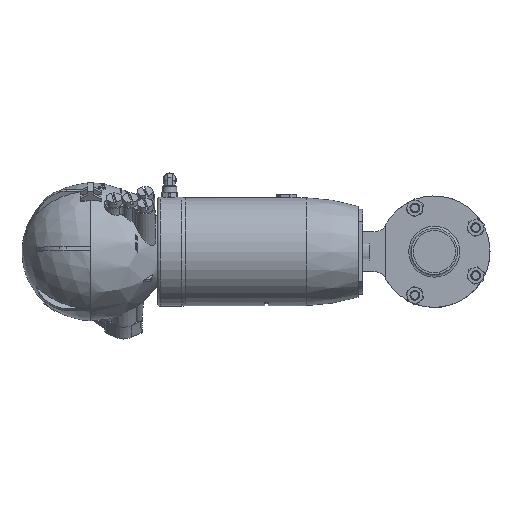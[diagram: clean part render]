
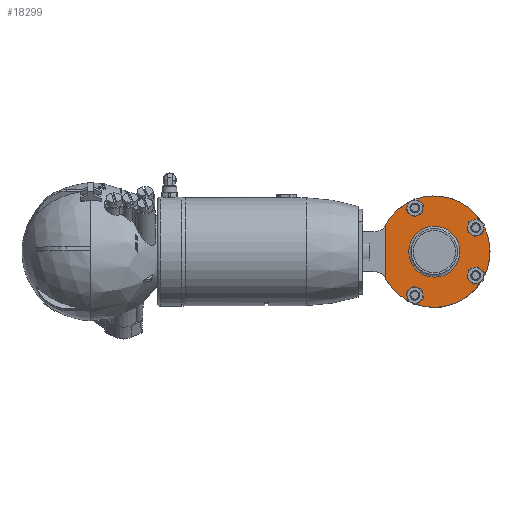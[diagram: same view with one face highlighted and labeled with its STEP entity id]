
A CAD part, top view. The second image highlights one B-rep face of the part: STEP entity #18299.
In plain terms, the highlighted planar face has unit normal (0, 0, 1) as drawn and (1, 0, 0) by its records, which use the part's own axes.
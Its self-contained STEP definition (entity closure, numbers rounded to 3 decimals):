
#1861=FACE_BOUND('',#4177,.T.);
#1862=FACE_BOUND('',#4178,.T.);
#1863=FACE_BOUND('',#4179,.T.);
#1864=FACE_BOUND('',#4180,.T.);
#1865=FACE_BOUND('',#4181,.T.);
#2054=PLANE('',#19877);
#3089=FACE_OUTER_BOUND('',#4176,.T.);
#4176=EDGE_LOOP('',(#13956,#13957));
#4177=EDGE_LOOP('',(#13958));
#4178=EDGE_LOOP('',(#13959));
#4179=EDGE_LOOP('',(#13960));
#4180=EDGE_LOOP('',(#13961));
#4181=EDGE_LOOP('',(#13962));
#5321=LINE('',#29507,#6388);
#6388=VECTOR('',#23158,10.);
#7369=CIRCLE('',#19868,46.);
#7370=CIRCLE('',#19870,4.1);
#7371=CIRCLE('',#19872,4.1);
#7372=CIRCLE('',#19874,4.1);
#7373=CIRCLE('',#19876,4.1);
#7374=CIRCLE('',#19878,21.05);
#8392=VERTEX_POINT('',#29504);
#8393=VERTEX_POINT('',#29506);
#8399=VERTEX_POINT('',#29524);
#8400=VERTEX_POINT('',#29528);
#8401=VERTEX_POINT('',#29532);
#8402=VERTEX_POINT('',#29536);
#8403=VERTEX_POINT('',#29540);
#10456=EDGE_CURVE('',#8393,#8392,#5321,.T.);
#10464=EDGE_CURVE('',#8392,#8393,#7369,.T.);
#10465=EDGE_CURVE('',#8399,#8399,#7370,.T.);
#10467=EDGE_CURVE('',#8400,#8400,#7371,.T.);
#10469=EDGE_CURVE('',#8401,#8401,#7372,.T.);
#10471=EDGE_CURVE('',#8402,#8402,#7373,.T.);
#10473=EDGE_CURVE('',#8403,#8403,#7374,.T.);
#13956=ORIENTED_EDGE('',*,*,#10456,.T.);
#13957=ORIENTED_EDGE('',*,*,#10464,.T.);
#13958=ORIENTED_EDGE('',*,*,#10465,.T.);
#13959=ORIENTED_EDGE('',*,*,#10467,.T.);
#13960=ORIENTED_EDGE('',*,*,#10469,.T.);
#13961=ORIENTED_EDGE('',*,*,#10471,.T.);
#13962=ORIENTED_EDGE('',*,*,#10473,.F.);
#18299=ADVANCED_FACE('',(#3089,#1861,#1862,#1863,#1864,#1865),#2054,.T.);
#19868=AXIS2_PLACEMENT_3D('',#29522,#23176,#23177);
#19870=AXIS2_PLACEMENT_3D('',#29525,#23180,#23181);
#19872=AXIS2_PLACEMENT_3D('',#29529,#23185,#23186);
#19874=AXIS2_PLACEMENT_3D('',#29533,#23190,#23191);
#19876=AXIS2_PLACEMENT_3D('',#29537,#23195,#23196);
#19877=AXIS2_PLACEMENT_3D('',#29539,#23198,#23199);
#19878=AXIS2_PLACEMENT_3D('',#29541,#23200,#23201);
#23158=DIRECTION('',(0.,0.,1.));
#23176=DIRECTION('center_axis',(1.,0.,0.));
#23177=DIRECTION('ref_axis',(0.,0.,-1.));
#23180=DIRECTION('center_axis',(-1.,0.,0.));
#23181=DIRECTION('ref_axis',(0.,0.,1.));
#23185=DIRECTION('center_axis',(-1.,0.,0.));
#23186=DIRECTION('ref_axis',(0.,0.,1.));
#23190=DIRECTION('center_axis',(-1.,0.,0.));
#23191=DIRECTION('ref_axis',(0.,0.,-1.));
#23195=DIRECTION('center_axis',(-1.,0.,0.));
#23196=DIRECTION('ref_axis',(0.,0.,-1.));
#23198=DIRECTION('center_axis',(1.,0.,0.));
#23199=DIRECTION('ref_axis',(0.,0.,-1.));
#23200=DIRECTION('center_axis',(1.,0.,0.));
#23201=DIRECTION('ref_axis',(0.,0.,-1.));
#29504=CARTESIAN_POINT('',(10.,40.,22.716));
#29506=CARTESIAN_POINT('',(10.,40.,-22.716));
#29507=CARTESIAN_POINT('',(10.,40.,-11.358));
#29522=CARTESIAN_POINT('Origin',(10.,0.,0.));
#29524=CARTESIAN_POINT('',(10.,16.066,31.985));
#29525=CARTESIAN_POINT('Origin',(10.,16.066,36.085));
#29528=CARTESIAN_POINT('',(10.,-34.208,15.65));
#29529=CARTESIAN_POINT('Origin',(10.,-34.208,19.75));
#29532=CARTESIAN_POINT('',(10.,16.066,-31.985));
#29533=CARTESIAN_POINT('Origin',(10.,16.066,-36.085));
#29536=CARTESIAN_POINT('',(10.,-34.208,-15.65));
#29537=CARTESIAN_POINT('Origin',(10.,-34.208,-19.75));
#29539=CARTESIAN_POINT('Origin',(10.,21.05,0.));
#29540=CARTESIAN_POINT('',(10.,0.,21.05));
#29541=CARTESIAN_POINT('Origin',(10.,0.,0.));
